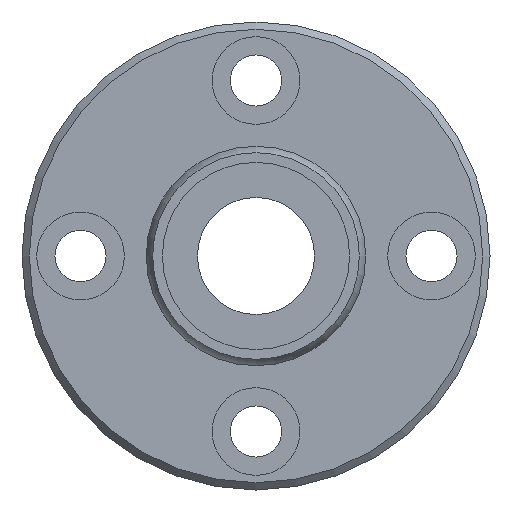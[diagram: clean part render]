
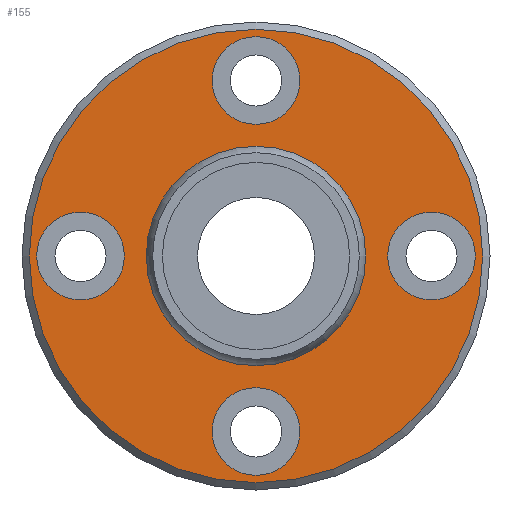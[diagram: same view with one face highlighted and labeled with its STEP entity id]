
A CAD part, left-side view. The second image highlights one B-rep face of the part: STEP entity #155.
In plain terms, the highlighted planar face has unit normal (-1, 0, 0).
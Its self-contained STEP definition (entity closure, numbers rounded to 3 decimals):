
#60=CARTESIAN_POINT('',(20.0,0.,15.5));
#61=VERTEX_POINT('',#60);
#62=CARTESIAN_POINT('',(20.0,0.0,0.0));
#63=DIRECTION('',(1.0,0.0,0.0));
#64=DIRECTION('',(0.0,0.0,-1.0));
#65=AXIS2_PLACEMENT_3D('',#62,#63,#64);
#66=CIRCLE('',#65,15.5);
#67=EDGE_CURVE('',#61,#61,#66,.T.);
#92=CARTESIAN_POINT('',(20.0,0.0,11.655));
#93=DIRECTION('',(-1.0,0.0,0.0));
#94=DIRECTION('',(0.0,0.0,1.0));
#95=AXIS2_PLACEMENT_3D('',#92,#93,#94);
#96=PLANE('',#95);
#97=ORIENTED_EDGE('',*,*,#67,.F.);
#98=EDGE_LOOP('',(#97));
#99=FACE_OUTER_BOUND('',#98,.T.);
#100=CARTESIAN_POINT('',(20.,0.0,7.309));
#101=VERTEX_POINT('',#100);
#102=CARTESIAN_POINT('',(20.,0.0,0.0));
#103=DIRECTION('',(-1.0,0.0,0.0));
#104=DIRECTION('',(0.0,0.0,1.0));
#105=AXIS2_PLACEMENT_3D('',#102,#103,#104);
#106=CIRCLE('',#105,7.309);
#107=EDGE_CURVE('',#101,#101,#106,.T.);
#108=ORIENTED_EDGE('',*,*,#107,.F.);
#109=EDGE_LOOP('',(#108));
#110=FACE_BOUND('',#109,.T.);
#111=CARTESIAN_POINT('',(20.0,-9.,0.));
#112=VERTEX_POINT('',#111);
#113=CARTESIAN_POINT('',(20.0,-12.,0.));
#114=DIRECTION('',(1.0,0.0,0.0));
#115=DIRECTION('',(0.0,1.0,0.0));
#116=AXIS2_PLACEMENT_3D('',#113,#114,#115);
#117=CIRCLE('',#116,3.);
#118=EDGE_CURVE('',#112,#112,#117,.T.);
#119=ORIENTED_EDGE('',*,*,#118,.T.);
#120=EDGE_LOOP('',(#119));
#121=FACE_BOUND('',#120,.T.);
#122=CARTESIAN_POINT('',(20.0,15.,0.));
#123=VERTEX_POINT('',#122);
#124=CARTESIAN_POINT('',(20.0,12.,0.));
#125=DIRECTION('',(1.0,0.0,0.0));
#126=DIRECTION('',(0.0,1.0,0.0));
#127=AXIS2_PLACEMENT_3D('',#124,#125,#126);
#128=CIRCLE('',#127,3.);
#129=EDGE_CURVE('',#123,#123,#128,.T.);
#130=ORIENTED_EDGE('',*,*,#129,.T.);
#131=EDGE_LOOP('',(#130));
#132=FACE_BOUND('',#131,.T.);
#133=CARTESIAN_POINT('',(20.0,3.,12.));
#134=VERTEX_POINT('',#133);
#135=CARTESIAN_POINT('',(20.0,0.,12.));
#136=DIRECTION('',(1.0,0.0,0.0));
#137=DIRECTION('',(0.0,1.0,0.0));
#138=AXIS2_PLACEMENT_3D('',#135,#136,#137);
#139=CIRCLE('',#138,3.);
#140=EDGE_CURVE('',#134,#134,#139,.T.);
#141=ORIENTED_EDGE('',*,*,#140,.T.);
#142=EDGE_LOOP('',(#141));
#143=FACE_BOUND('',#142,.T.);
#144=CARTESIAN_POINT('',(20.0,3.,-12.));
#145=VERTEX_POINT('',#144);
#146=CARTESIAN_POINT('',(20.0,0.,-12.));
#147=DIRECTION('',(1.0,0.0,0.0));
#148=DIRECTION('',(0.0,1.0,0.0));
#149=AXIS2_PLACEMENT_3D('',#146,#147,#148);
#150=CIRCLE('',#149,3.);
#151=EDGE_CURVE('',#145,#145,#150,.T.);
#152=ORIENTED_EDGE('',*,*,#151,.T.);
#153=EDGE_LOOP('',(#152));
#154=FACE_BOUND('',#153,.T.);
#155=ADVANCED_FACE('',(#99,#110,#121,#132,#143,#154),#96,.T.);
